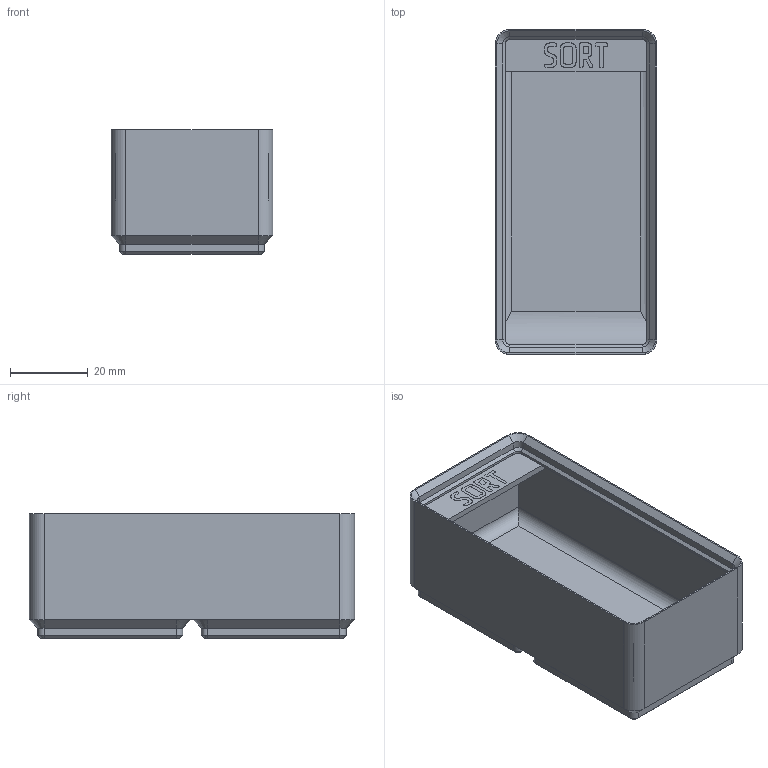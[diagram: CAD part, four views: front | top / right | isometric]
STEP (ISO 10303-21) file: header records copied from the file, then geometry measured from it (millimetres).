
FILE_DESCRIPTION(('Open CASCADE Model'),'2;1');
FILE_NAME('bin_SORT_1x2','2026-11-03T10:52:33',('Author'),( 'Open CASCADE'),'Open CASCADE STEP processor 8.0','build123d', 'Unknown');
FILE_SCHEMA(('AUTOMOTIVE_DESIGN { 1 0 10303 214 1 1 1 1 }'));
Length unit declared in the file: millimetre
Products named in the file (3): bin_SORT_1x2; SORT_1x2_body; SORT_1x2_label
Assembly tree (2 placements, depth 2):
  bin_SORT_1x2
    SORT_1x2_body
    SORT_1x2_label
Bounding box: 41.5 x 83.5 x 32 mm (x, y, z)
Volume: 28504.5 mm3; surface area: 21046.4 mm2
Topology: 5 solids, 5 shells, 1047 faces, 3008 edges, 1978 vertices
Faces by surface type: plane 995, cone 28, cylinder 24
Entity records: 72665 total; most frequent: CARTESIAN_POINT 12722, DIRECTION 10871, LINE 8628, VECTOR 8628, ORIENTED_EDGE 6016, PCURVE 6016, DEFINITIONAL_REPRESENTATION 6016, EDGE_CURVE 3008
